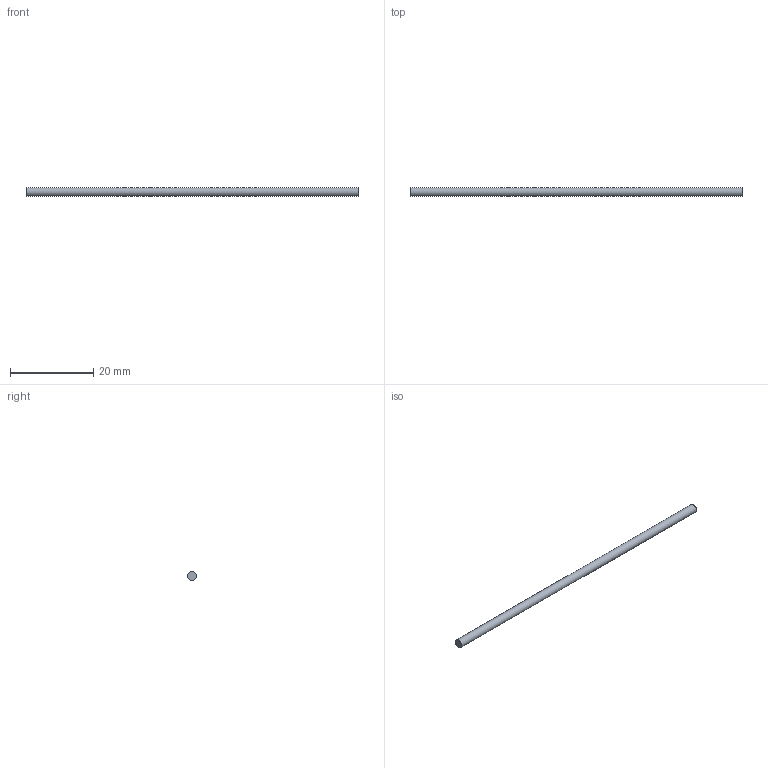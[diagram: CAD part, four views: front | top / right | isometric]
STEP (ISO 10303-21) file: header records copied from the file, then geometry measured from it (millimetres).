
FILE_DESCRIPTION(('Open CASCADE Model'),'2;1');
FILE_NAME('Open CASCADE Shape Model','2026-10-24T14:45:54',('Author'),( 'Open CASCADE'),'Open CASCADE STEP processor 7.7','Open CASCADE 7.7' ,'Unknown');
FILE_SCHEMA(('AUTOMOTIVE_DESIGN { 1 0 10303 214 1 1 1 1 }'));
Length unit declared in the file: millimetre
Products named in the file (1): Open CASCADE STEP translator 7.7 3
Bounding box: 80 x 2.1 x 2.1 mm (x, y, z)
Volume: 277.1 mm3; surface area: 534.7 mm2
Topology: 1 solids, 1 shells, 3 faces, 3 edges, 2 vertices
Faces by surface type: plane 2, cylinder 1
Full cylindrical faces by diameter (mm): 2.1 x1
Entity records: 108 total; most frequent: DIRECTION 19, CARTESIAN_POINT 15, AXIS2_PLACEMENT_3D 6, ORIENTED_EDGE 6, PCURVE 6, DEFINITIONAL_REPRESENTATION 6, LINE 5, VECTOR 5
